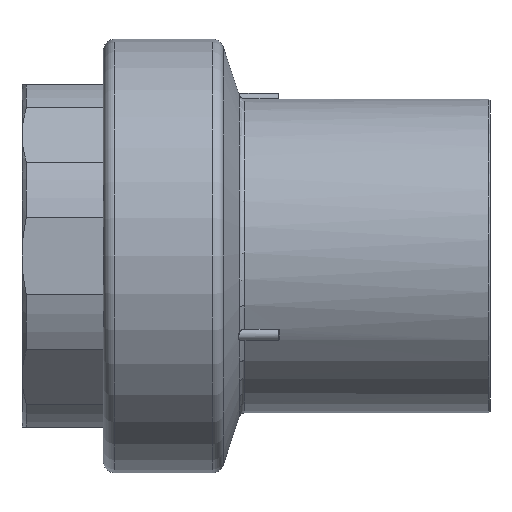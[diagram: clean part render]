
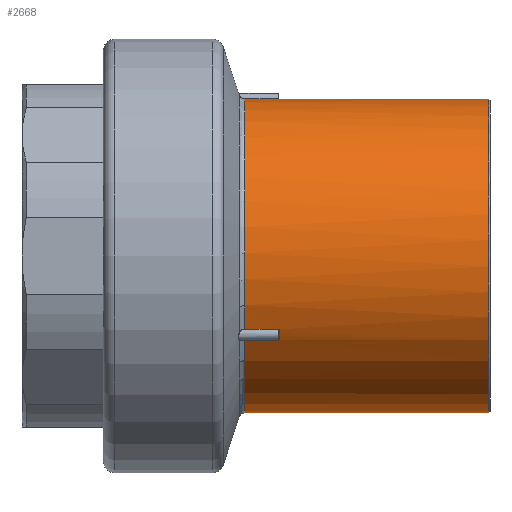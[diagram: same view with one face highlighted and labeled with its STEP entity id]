
A CAD part, front view. The second image highlights one B-rep face of the part: STEP entity #2668.
In plain terms, the highlighted cylindrical face has radius 55 mm (diameter 110 mm), a full revolution.
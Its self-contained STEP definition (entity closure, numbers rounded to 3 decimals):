
#54=B_SPLINE_CURVE_WITH_KNOTS('',3,(#4870,#4871,#4872,#4873),
 .UNSPECIFIED.,.F.,.F.,(4,4),(0.,0.),.UNSPECIFIED.);
#55=B_SPLINE_CURVE_WITH_KNOTS('',3,(#4886,#4887,#4888,#4889),
 .UNSPECIFIED.,.F.,.F.,(4,4),(0.,0.),.UNSPECIFIED.);
#64=B_SPLINE_CURVE_WITH_KNOTS('',3,(#5026,#5027,#5028,#5029),
 .UNSPECIFIED.,.F.,.F.,(4,4),(0.,0.),.UNSPECIFIED.);
#65=B_SPLINE_CURVE_WITH_KNOTS('',3,(#5042,#5043,#5044,#5045),
 .UNSPECIFIED.,.F.,.F.,(4,4),(0.,0.),.UNSPECIFIED.);
#68=B_SPLINE_CURVE_WITH_KNOTS('',3,(#5069,#5070,#5071,#5072),
 .UNSPECIFIED.,.F.,.F.,(4,4),(0.,0.),.UNSPECIFIED.);
#69=B_SPLINE_CURVE_WITH_KNOTS('',3,(#5076,#5077,#5078,#5079),
 .UNSPECIFIED.,.F.,.F.,(4,4),(0.,0.),.UNSPECIFIED.);
#185=LINE('',#4802,#349);
#188=LINE('',#4857,#352);
#189=LINE('',#4964,#353);
#192=LINE('',#5013,#356);
#193=LINE('',#5067,#357);
#194=LINE('',#5081,#358);
#349=VECTOR('',#3936,1000.);
#352=VECTOR('',#3961,1000.);
#353=VECTOR('',#3982,1000.);
#356=VECTOR('',#4007,1000.);
#357=VECTOR('',#4024,1000.);
#358=VECTOR('',#4027,1000.);
#871=ORIENTED_EDGE('',*,*,#1475,.F.);
#872=ORIENTED_EDGE('',*,*,#1480,.T.);
#873=ORIENTED_EDGE('',*,*,#1481,.F.);
#874=ORIENTED_EDGE('',*,*,#1482,.T.);
#875=ORIENTED_EDGE('',*,*,#1483,.F.);
#876=ORIENTED_EDGE('',*,*,#1484,.T.);
#877=ORIENTED_EDGE('',*,*,#1447,.F.);
#878=ORIENTED_EDGE('',*,*,#1458,.T.);
#879=ORIENTED_EDGE('',*,*,#1473,.F.);
#880=ORIENTED_EDGE('',*,*,#1463,.T.);
#881=ORIENTED_EDGE('',*,*,#1474,.F.);
#882=ORIENTED_EDGE('',*,*,#1472,.T.);
#883=ORIENTED_EDGE('',*,*,#1418,.F.);
#884=ORIENTED_EDGE('',*,*,#1429,.T.);
#885=ORIENTED_EDGE('',*,*,#1445,.F.);
#886=ORIENTED_EDGE('',*,*,#1435,.T.);
#887=ORIENTED_EDGE('',*,*,#1446,.F.);
#888=ORIENTED_EDGE('',*,*,#1444,.T.);
#889=ORIENTED_EDGE('',*,*,#1485,.T.);
#1418=EDGE_CURVE('',#1769,#1770,#1996,.T.);
#1429=EDGE_CURVE('',#1769,#1778,#185,.F.);
#1435=EDGE_CURVE('',#1783,#1782,#2004,.F.);
#1444=EDGE_CURVE('',#1786,#1779,#188,.T.);
#1445=EDGE_CURVE('',#1783,#1778,#54,.T.);
#1446=EDGE_CURVE('',#1786,#1782,#55,.T.);
#1447=EDGE_CURVE('',#1787,#1788,#2010,.T.);
#1458=EDGE_CURVE('',#1787,#1795,#189,.F.);
#1463=EDGE_CURVE('',#1799,#1798,#2018,.F.);
#1472=EDGE_CURVE('',#1802,#1770,#192,.T.);
#1473=EDGE_CURVE('',#1799,#1795,#64,.T.);
#1474=EDGE_CURVE('',#1802,#1798,#65,.T.);
#1475=EDGE_CURVE('',#1803,#1779,#2024,.T.);
#1480=EDGE_CURVE('',#1803,#1806,#193,.F.);
#1481=EDGE_CURVE('',#1807,#1806,#68,.T.);
#1482=EDGE_CURVE('',#1807,#1808,#2027,.F.);
#1483=EDGE_CURVE('',#1809,#1808,#69,.T.);
#1484=EDGE_CURVE('',#1809,#1788,#194,.T.);
#1485=EDGE_CURVE('',#1810,#1810,#2028,.F.);
#1769=VERTEX_POINT('',#4731);
#1770=VERTEX_POINT('',#4732);
#1778=VERTEX_POINT('',#4801);
#1779=VERTEX_POINT('',#4820);
#1782=VERTEX_POINT('',#4835);
#1783=VERTEX_POINT('',#4837);
#1786=VERTEX_POINT('',#4855);
#1787=VERTEX_POINT('',#4894);
#1788=VERTEX_POINT('',#4895);
#1795=VERTEX_POINT('',#4963);
#1798=VERTEX_POINT('',#4991);
#1799=VERTEX_POINT('',#4993);
#1802=VERTEX_POINT('',#5011);
#1803=VERTEX_POINT('',#5050);
#1806=VERTEX_POINT('',#5068);
#1807=VERTEX_POINT('',#5073);
#1808=VERTEX_POINT('',#5075);
#1809=VERTEX_POINT('',#5080);
#1810=VERTEX_POINT('',#5083);
#1996=CIRCLE('',#3424,55.);
#2004=CIRCLE('',#3434,55.);
#2010=CIRCLE('',#3445,55.);
#2018=CIRCLE('',#3455,55.);
#2024=CIRCLE('',#3466,55.);
#2027=CIRCLE('',#3471,55.);
#2028=CIRCLE('',#3472,55.);
#2214=EDGE_LOOP('',(#871,#872,#873,#874,#875,#876,#877,#878,#879,#880,#881,
#882,#883,#884,#885,#886,#887,#888));
#2215=EDGE_LOOP('',(#889));
#2432=FACE_BOUND('',#2214,.T.);
#2433=FACE_BOUND('',#2215,.T.);
#2569=CYLINDRICAL_SURFACE('',#3470,55.);
#2668=ADVANCED_FACE('',(#2432,#2433),#2569,.T.);
#3424=AXIS2_PLACEMENT_3D('',#4730,#3922,#3923);
#3434=AXIS2_PLACEMENT_3D('',#4836,#3944,#3945);
#3445=AXIS2_PLACEMENT_3D('',#4893,#3968,#3969);
#3455=AXIS2_PLACEMENT_3D('',#4992,#3990,#3991);
#3466=AXIS2_PLACEMENT_3D('',#5049,#4014,#4015);
#3470=AXIS2_PLACEMENT_3D('',#5066,#4022,#4023);
#3471=AXIS2_PLACEMENT_3D('',#5074,#4025,#4026);
#3472=AXIS2_PLACEMENT_3D('',#5082,#4028,#4029);
#3922=DIRECTION('',(-1.,0.,0.));
#3923=DIRECTION('',(0.,0.,1.));
#3936=DIRECTION('',(-1.,0.,0.));
#3944=DIRECTION('',(-1.,0.,0.));
#3945=DIRECTION('',(0.,0.5,0.866));
#3961=DIRECTION('',(-1.,0.,0.));
#3968=DIRECTION('',(-1.,0.,0.));
#3969=DIRECTION('',(0.,0.,1.));
#3982=DIRECTION('',(-1.,0.,0.));
#3990=DIRECTION('',(-1.,0.,0.));
#3991=DIRECTION('',(0.,0.5,-0.866));
#4007=DIRECTION('',(-1.,0.,0.));
#4014=DIRECTION('',(-1.,0.,0.));
#4015=DIRECTION('',(0.,0.,1.));
#4022=DIRECTION('',(-1.,0.,0.));
#4023=DIRECTION('',(0.,0.,1.));
#4024=DIRECTION('',(-1.,0.,0.));
#4025=DIRECTION('',(-1.,0.,0.));
#4026=DIRECTION('',(0.,-1.,0.));
#4027=DIRECTION('',(-1.,0.,0.));
#4028=DIRECTION('',(1.,0.,0.));
#4029=DIRECTION('',(0.,0.,-1.));
#4730=CARTESIAN_POINT('',(49.5,0.,0.));
#4731=CARTESIAN_POINT('',(49.5,46.55,-29.294));
#4732=CARTESIAN_POINT('',(49.5,-46.55,-29.294));
#4801=CARTESIAN_POINT('',(61.4,46.55,-29.294));
#4802=CARTESIAN_POINT('',(-60.,46.55,-29.294));
#4820=CARTESIAN_POINT('',(49.5,48.644,-25.667));
#4835=CARTESIAN_POINT('',(61.6,48.55,-25.844));
#4836=CARTESIAN_POINT('',(61.6,0.,0.));
#4837=CARTESIAN_POINT('',(61.6,46.656,-29.124));
#4855=CARTESIAN_POINT('',(61.4,48.644,-25.667));
#4857=CARTESIAN_POINT('',(-60.,48.644,-25.667));
#4870=CARTESIAN_POINT('',(61.6,46.656,-29.124));
#4871=CARTESIAN_POINT('',(61.6,46.6,-29.213));
#4872=CARTESIAN_POINT('',(61.506,46.55,-29.294));
#4873=CARTESIAN_POINT('',(61.4,46.55,-29.294));
#4886=CARTESIAN_POINT('',(61.4,48.644,-25.667));
#4887=CARTESIAN_POINT('',(61.506,48.644,-25.667));
#4888=CARTESIAN_POINT('',(61.6,48.6,-25.75));
#4889=CARTESIAN_POINT('',(61.6,48.55,-25.844));
#4893=CARTESIAN_POINT('',(49.5,0.,0.));
#4894=CARTESIAN_POINT('',(49.5,-48.644,-25.667));
#4895=CARTESIAN_POINT('',(49.5,-2.094,54.96));
#4963=CARTESIAN_POINT('',(61.4,-48.644,-25.667));
#4964=CARTESIAN_POINT('',(-60.,-48.644,-25.667));
#4991=CARTESIAN_POINT('',(61.6,-46.656,-29.124));
#4992=CARTESIAN_POINT('',(61.6,0.,0.));
#4993=CARTESIAN_POINT('',(61.6,-48.55,-25.844));
#5011=CARTESIAN_POINT('',(61.4,-46.55,-29.294));
#5013=CARTESIAN_POINT('',(-60.,-46.55,-29.294));
#5026=CARTESIAN_POINT('',(61.6,-48.55,-25.844));
#5027=CARTESIAN_POINT('',(61.6,-48.6,-25.75));
#5028=CARTESIAN_POINT('',(61.506,-48.644,-25.667));
#5029=CARTESIAN_POINT('',(61.4,-48.644,-25.667));
#5042=CARTESIAN_POINT('',(61.4,-46.55,-29.294));
#5043=CARTESIAN_POINT('',(61.506,-46.55,-29.294));
#5044=CARTESIAN_POINT('',(61.6,-46.6,-29.213));
#5045=CARTESIAN_POINT('',(61.6,-46.656,-29.124));
#5049=CARTESIAN_POINT('',(49.5,0.,0.));
#5050=CARTESIAN_POINT('',(49.5,2.094,54.96));
#5066=CARTESIAN_POINT('',(-60.,0.,0.));
#5067=CARTESIAN_POINT('',(-60.,2.094,54.96));
#5068=CARTESIAN_POINT('',(61.4,2.094,54.96));
#5069=CARTESIAN_POINT('',(61.6,1.894,54.967));
#5070=CARTESIAN_POINT('',(61.6,1.999,54.964));
#5071=CARTESIAN_POINT('',(61.506,2.094,54.96));
#5072=CARTESIAN_POINT('',(61.4,2.094,54.96));
#5073=CARTESIAN_POINT('',(61.6,1.894,54.967));
#5074=CARTESIAN_POINT('',(61.6,0.,0.));
#5075=CARTESIAN_POINT('',(61.6,-1.894,54.967));
#5076=CARTESIAN_POINT('',(61.4,-2.094,54.96));
#5077=CARTESIAN_POINT('',(61.506,-2.094,54.96));
#5078=CARTESIAN_POINT('',(61.6,-1.999,54.964));
#5079=CARTESIAN_POINT('',(61.6,-1.894,54.967));
#5080=CARTESIAN_POINT('',(61.4,-2.094,54.96));
#5081=CARTESIAN_POINT('',(-60.,-2.094,54.96));
#5082=CARTESIAN_POINT('',(135.,0.,0.));
#5083=CARTESIAN_POINT('',(135.,0.,-55.));
